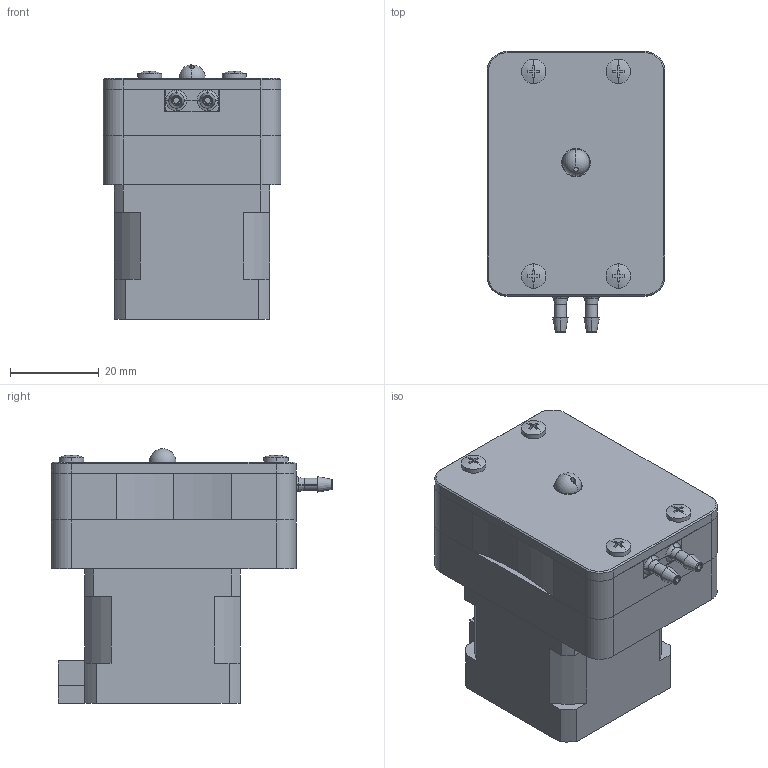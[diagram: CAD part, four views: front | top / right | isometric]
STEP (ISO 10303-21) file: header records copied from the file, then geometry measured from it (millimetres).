
FILE_DESCRIPTION (( 'STEP AP214' ), '1' );
FILE_NAME ('rp-h3-step.STEP', '2025-04-30T06:39:52', ( '' ), ( '' ), 'SwSTEP 2.0', 'SolidWorks 2024', '' );
FILE_SCHEMA (( 'AUTOMOTIVE_DESIGN' ));
Length unit declared in the file: millimetre
Products named in the file (12): NKM-14M10A1; 35□_COVER; NKM-14M10A3; M26x10_Pタイト_CSPBDS2B-ST-TP2_6-10; 35□_PUMP CASE-forWEB; rp-h3-step; RP-G3N_JOINER_R1-forWEB; S6B-PH-K-S; 35□_BASE-forWEB; コネクターカバー; ROTOR-forWEB; プッシュナット
Assembly tree (17 placements, depth 3):
  rp-h3-step
    35□_BASE-forWEB
    35□_PUMP CASE-forWEB
    ROTOR-forWEB
    RP-G3N_JOINER_R1-forWEB
    プッシュナット  x4
    35□_COVER
    M26x10_Pタイト_CSPBDS2B-ST-TP2_6-10  x4
    NKM-14M10A3
      NKM-14M10A1
      コネクターカバー
      S6B-PH-K-S
Bounding box: 40 x 63.19 x 57.2 mm (x, y, z)
Volume: 86801.3 mm3; surface area: 29624 mm2
Topology: 16 solids, 16 shells, 765 faces, 1973 edges, 1285 vertices
Faces by surface type: plane 362, cylinder 204, cone 113, bspline 58, torus 18, sphere 10
Entity records: 17534 total; most frequent: CARTESIAN_POINT 4013, DIRECTION 2744, ORIENTED_EDGE 2726, EDGE_CURVE 1363, AXIS2_PLACEMENT_3D 979, VERTEX_POINT 884, VECTOR 786, LINE 786
